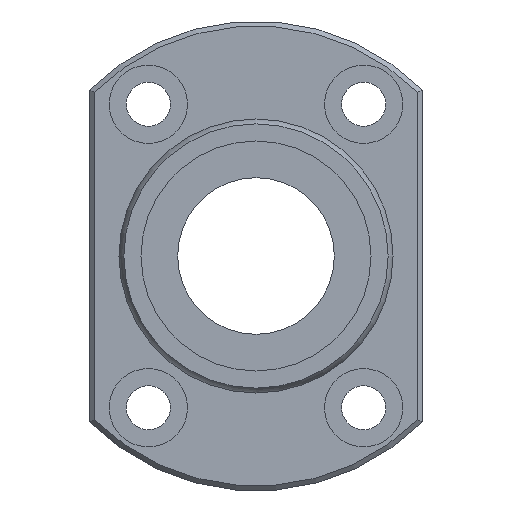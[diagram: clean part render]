
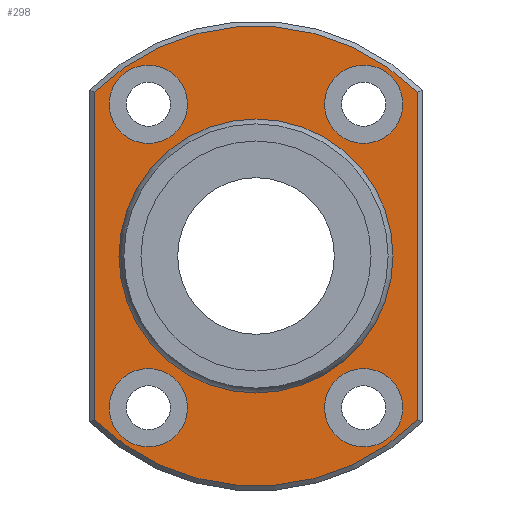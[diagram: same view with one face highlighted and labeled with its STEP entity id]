
A CAD part, left-side view. The second image highlights one B-rep face of the part: STEP entity #298.
In plain terms, the highlighted planar face has unit normal (-1, 0, 0).
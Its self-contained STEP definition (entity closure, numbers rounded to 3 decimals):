
#59=CARTESIAN_POINT('',(31.,-16.5,16.733));
#60=VERTEX_POINT('',#59);
#68=CARTESIAN_POINT('',(31.,-16.5,-16.733));
#69=VERTEX_POINT('',#68);
#70=CARTESIAN_POINT('',(31.,-16.5,16.733));
#71=DIRECTION('',(0.0,0.0,-1.0));
#72=VECTOR('',#71,33.466);
#73=LINE('',#70,#72);
#74=EDGE_CURVE('',#60,#69,#73,.T.);
#101=CARTESIAN_POINT('',(31.,16.5,-16.733));
#102=VERTEX_POINT('',#101);
#103=CARTESIAN_POINT('',(31.,0.0,0.0));
#104=DIRECTION('',(1.0,0.0,0.0));
#105=DIRECTION('',(0.0,0.0,-1.0));
#106=AXIS2_PLACEMENT_3D('',#103,#104,#105);
#107=CIRCLE('',#106,23.5);
#108=EDGE_CURVE('',#69,#102,#107,.T.);
#134=CARTESIAN_POINT('',(31.,16.5,16.733));
#135=VERTEX_POINT('',#134);
#136=CARTESIAN_POINT('',(31.,16.5,-16.733));
#137=DIRECTION('',(0.0,0.0,1.0));
#138=VECTOR('',#137,33.466);
#139=LINE('',#136,#138);
#140=EDGE_CURVE('',#102,#135,#139,.T.);
#165=CARTESIAN_POINT('',(31.,0.0,0.0));
#166=DIRECTION('',(1.0,0.0,0.0));
#167=DIRECTION('',(0.0,0.0,1.0));
#168=AXIS2_PLACEMENT_3D('',#165,#166,#167);
#169=CIRCLE('',#168,23.5);
#170=EDGE_CURVE('',#135,#60,#169,.T.);
#232=CARTESIAN_POINT('',(31.,0.0,18.887));
#233=DIRECTION('',(-1.0,0.0,0.0));
#234=DIRECTION('',(0.0,0.0,1.0));
#235=AXIS2_PLACEMENT_3D('',#232,#233,#234);
#236=PLANE('',#235);
#237=ORIENTED_EDGE('',*,*,#74,.F.);
#238=ORIENTED_EDGE('',*,*,#170,.F.);
#239=ORIENTED_EDGE('',*,*,#140,.F.);
#240=ORIENTED_EDGE('',*,*,#108,.F.);
#241=EDGE_LOOP('',(#237,#238,#239,#240));
#242=FACE_OUTER_BOUND('',#241,.T.);
#243=CARTESIAN_POINT('',(31.,0.0,13.773));
#244=VERTEX_POINT('',#243);
#245=CARTESIAN_POINT('',(31.,0.0,0.0));
#246=DIRECTION('',(-1.0,0.0,0.0));
#247=DIRECTION('',(0.0,0.0,1.0));
#248=AXIS2_PLACEMENT_3D('',#245,#246,#247);
#249=CIRCLE('',#248,13.773);
#250=EDGE_CURVE('',#244,#244,#249,.T.);
#251=ORIENTED_EDGE('',*,*,#250,.F.);
#252=EDGE_LOOP('',(#251));
#253=FACE_BOUND('',#252,.T.);
#254=CARTESIAN_POINT('',(31.0,-7.,-15.5));
#255=VERTEX_POINT('',#254);
#256=CARTESIAN_POINT('',(31.,-11.,-15.5));
#257=DIRECTION('',(1.0,0.0,0.0));
#258=DIRECTION('',(0.0,1.0,0.0));
#259=AXIS2_PLACEMENT_3D('',#256,#257,#258);
#260=CIRCLE('',#259,4.0);
#261=EDGE_CURVE('',#255,#255,#260,.T.);
#262=ORIENTED_EDGE('',*,*,#261,.T.);
#263=EDGE_LOOP('',(#262));
#264=FACE_BOUND('',#263,.T.);
#265=CARTESIAN_POINT('',(31.0,-7.,15.5));
#266=VERTEX_POINT('',#265);
#267=CARTESIAN_POINT('',(31.,-11.,15.5));
#268=DIRECTION('',(1.0,0.0,0.0));
#269=DIRECTION('',(0.0,1.0,0.0));
#270=AXIS2_PLACEMENT_3D('',#267,#268,#269);
#271=CIRCLE('',#270,4.0);
#272=EDGE_CURVE('',#266,#266,#271,.T.);
#273=ORIENTED_EDGE('',*,*,#272,.T.);
#274=EDGE_LOOP('',(#273));
#275=FACE_BOUND('',#274,.T.);
#276=CARTESIAN_POINT('',(31.0,15.,-15.5));
#277=VERTEX_POINT('',#276);
#278=CARTESIAN_POINT('',(31.,11.,-15.5));
#279=DIRECTION('',(1.0,0.0,0.0));
#280=DIRECTION('',(0.0,1.0,0.0));
#281=AXIS2_PLACEMENT_3D('',#278,#279,#280);
#282=CIRCLE('',#281,4.0);
#283=EDGE_CURVE('',#277,#277,#282,.T.);
#284=ORIENTED_EDGE('',*,*,#283,.T.);
#285=EDGE_LOOP('',(#284));
#286=FACE_BOUND('',#285,.T.);
#287=CARTESIAN_POINT('',(31.0,15.,15.5));
#288=VERTEX_POINT('',#287);
#289=CARTESIAN_POINT('',(31.,11.,15.5));
#290=DIRECTION('',(1.0,0.0,0.0));
#291=DIRECTION('',(0.0,1.0,0.0));
#292=AXIS2_PLACEMENT_3D('',#289,#290,#291);
#293=CIRCLE('',#292,4.0);
#294=EDGE_CURVE('',#288,#288,#293,.T.);
#295=ORIENTED_EDGE('',*,*,#294,.T.);
#296=EDGE_LOOP('',(#295));
#297=FACE_BOUND('',#296,.T.);
#298=ADVANCED_FACE('',(#242,#253,#264,#275,#286,#297),#236,.T.);
